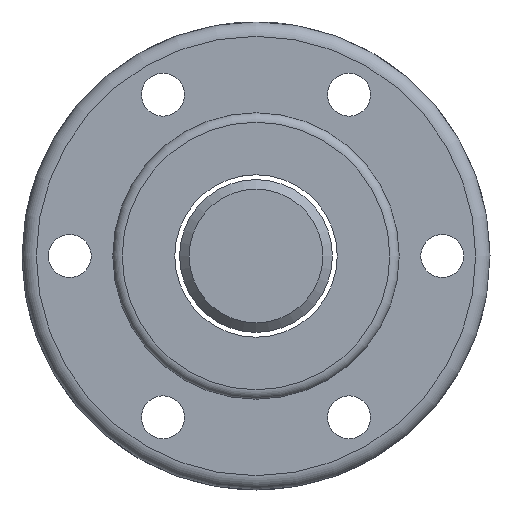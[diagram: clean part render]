
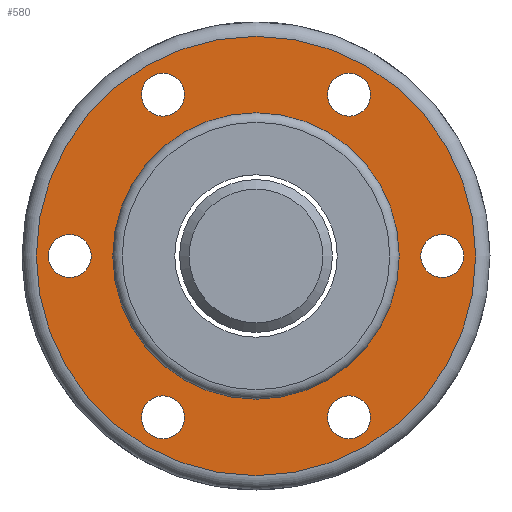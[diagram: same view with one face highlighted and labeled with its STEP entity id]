
A CAD part, left-side view. The second image highlights one B-rep face of the part: STEP entity #580.
In plain terms, the highlighted planar face has unit normal (-1, 0, 0).
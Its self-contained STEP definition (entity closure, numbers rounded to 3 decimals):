
#80=PLANE('',#688);
#192=ORIENTED_EDGE('',*,*,#273,.T.);
#193=ORIENTED_EDGE('',*,*,#279,.F.);
#194=ORIENTED_EDGE('',*,*,#271,.T.);
#195=ORIENTED_EDGE('',*,*,#268,.T.);
#196=ORIENTED_EDGE('',*,*,#265,.T.);
#197=ORIENTED_EDGE('',*,*,#262,.T.);
#198=ORIENTED_EDGE('',*,*,#259,.T.);
#199=ORIENTED_EDGE('',*,*,#256,.T.);
#256=EDGE_CURVE('',#313,#313,#365,.T.);
#259=EDGE_CURVE('',#316,#316,#368,.T.);
#262=EDGE_CURVE('',#319,#319,#371,.T.);
#265=EDGE_CURVE('',#322,#322,#374,.T.);
#268=EDGE_CURVE('',#325,#325,#377,.T.);
#271=EDGE_CURVE('',#328,#328,#380,.T.);
#273=EDGE_CURVE('',#330,#330,#382,.T.);
#279=EDGE_CURVE('',#336,#336,#384,.T.);
#313=VERTEX_POINT('',#964);
#316=VERTEX_POINT('',#973);
#319=VERTEX_POINT('',#982);
#322=VERTEX_POINT('',#991);
#325=VERTEX_POINT('',#1000);
#328=VERTEX_POINT('',#1009);
#330=VERTEX_POINT('',#1014);
#336=VERTEX_POINT('',#1047);
#365=CIRCLE('',#649,2.25);
#368=CIRCLE('',#655,2.25);
#371=CIRCLE('',#661,2.25);
#374=CIRCLE('',#667,2.25);
#377=CIRCLE('',#673,2.25);
#380=CIRCLE('',#679,2.25);
#382=CIRCLE('',#682,15.);
#384=CIRCLE('',#687,23.);
#448=EDGE_LOOP('',(#192));
#449=EDGE_LOOP('',(#193));
#450=EDGE_LOOP('',(#194));
#451=EDGE_LOOP('',(#195));
#452=EDGE_LOOP('',(#196));
#453=EDGE_LOOP('',(#197));
#454=EDGE_LOOP('',(#198));
#455=EDGE_LOOP('',(#199));
#527=FACE_BOUND('',#448,.T.);
#528=FACE_BOUND('',#449,.T.);
#529=FACE_BOUND('',#450,.T.);
#530=FACE_BOUND('',#451,.T.);
#531=FACE_BOUND('',#452,.T.);
#532=FACE_BOUND('',#453,.T.);
#533=FACE_BOUND('',#454,.T.);
#534=FACE_BOUND('',#455,.T.);
#580=ADVANCED_FACE('',(#527,#528,#529,#530,#531,#532,#533,#534),#80,.F.);
#649=AXIS2_PLACEMENT_3D('',#963,#771,#772);
#655=AXIS2_PLACEMENT_3D('',#972,#783,#784);
#661=AXIS2_PLACEMENT_3D('',#981,#795,#796);
#667=AXIS2_PLACEMENT_3D('',#990,#807,#808);
#673=AXIS2_PLACEMENT_3D('',#999,#819,#820);
#679=AXIS2_PLACEMENT_3D('',#1008,#831,#832);
#682=AXIS2_PLACEMENT_3D('',#1013,#837,#838);
#687=AXIS2_PLACEMENT_3D('',#1046,#847,#848);
#688=AXIS2_PLACEMENT_3D('',#1048,#849,#850);
#771=DIRECTION('',(1.,0.,0.));
#772=DIRECTION('',(0.,1.,0.));
#783=DIRECTION('',(1.,0.,0.));
#784=DIRECTION('',(0.,1.,0.));
#795=DIRECTION('',(1.,0.,0.));
#796=DIRECTION('',(0.,1.,0.));
#807=DIRECTION('',(1.,0.,0.));
#808=DIRECTION('',(0.,1.,0.));
#819=DIRECTION('',(1.,0.,0.));
#820=DIRECTION('',(0.,1.,0.));
#831=DIRECTION('',(1.,0.,0.));
#832=DIRECTION('',(0.,1.,0.));
#837=DIRECTION('',(1.,0.,0.));
#838=DIRECTION('',(0.,1.,0.));
#847=DIRECTION('',(1.,0.,0.));
#848=DIRECTION('',(0.,1.,0.));
#849=DIRECTION('',(1.,0.,0.));
#850=DIRECTION('',(0.,1.,0.));
#963=CARTESIAN_POINT('',(-22.5,19.5,0.));
#964=CARTESIAN_POINT('',(-22.5,21.75,0.));
#972=CARTESIAN_POINT('',(-22.5,-19.5,0.));
#973=CARTESIAN_POINT('',(-22.5,-17.25,0.));
#981=CARTESIAN_POINT('',(-22.5,9.75,-16.89));
#982=CARTESIAN_POINT('',(-22.5,12.,-16.89));
#990=CARTESIAN_POINT('',(-22.5,-9.75,-16.89));
#991=CARTESIAN_POINT('',(-22.5,-7.5,-16.89));
#999=CARTESIAN_POINT('',(-22.5,-9.75,16.89));
#1000=CARTESIAN_POINT('',(-22.5,-7.5,16.89));
#1008=CARTESIAN_POINT('',(-22.5,9.75,16.89));
#1009=CARTESIAN_POINT('',(-22.5,12.,16.89));
#1013=CARTESIAN_POINT('',(-22.5,0.,0.));
#1014=CARTESIAN_POINT('',(-22.5,15.,0.));
#1046=CARTESIAN_POINT('',(-22.5,0.,0.));
#1047=CARTESIAN_POINT('',(-22.5,23.,0.));
#1048=CARTESIAN_POINT('',(-22.5,19.,0.));
